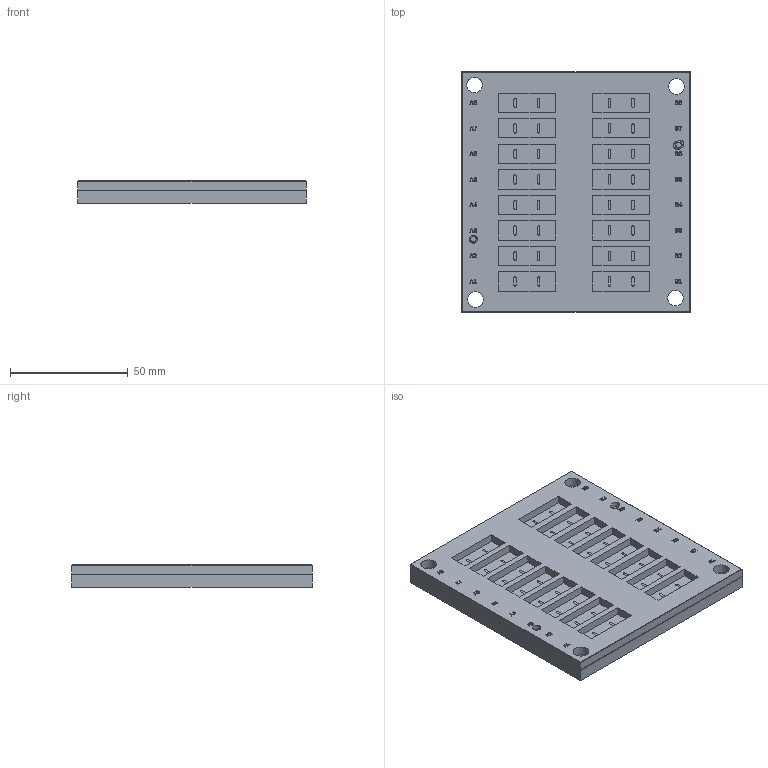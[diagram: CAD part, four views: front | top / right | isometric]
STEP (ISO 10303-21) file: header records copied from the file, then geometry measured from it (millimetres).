
FILE_DESCRIPTION(('Open CASCADE Model'),'2;1');
FILE_NAME('Open CASCADE Shape Model','2026-10-31T05:51:44',('Author'),( 'Open CASCADE'),'Open CASCADE STEP processor 7.8','Open CASCADE 7.8' ,'Unknown');
FILE_SCHEMA(('AUTOMOTIVE_DESIGN { 1 0 10303 214 1 1 1 1 }'));
Length unit declared in the file: millimetre
Products named in the file (3): JIS7_marking_jig_C04_S10; BASE_C04; LID_S10
Assembly tree (2 placements, depth 2):
  JIS7_marking_jig_C04_S10
    BASE_C04
    LID_S10
Bounding box: 97 x 102 x 9.5 mm (x, y, z)
Volume: 77486.5 mm3; surface area: 49338.8 mm2
Topology: 2 solids, 2 shells, 2411 faces, 6245 edges, 4032 vertices
Faces by surface type: plane 1116, extrusion 704, cylinder 333, cone 258
Full cylindrical faces by diameter (mm): 3 x2, 3.4 x1, 6.6 x8
Entity records: 165488 total; most frequent: CARTESIAN_POINT 47311, DIRECTION 18785, VECTOR 13175, ORIENTED_EDGE 12490, PCURVE 12490, DEFINITIONAL_REPRESENTATION 12490, LINE 12471, EDGE_CURVE 6245
